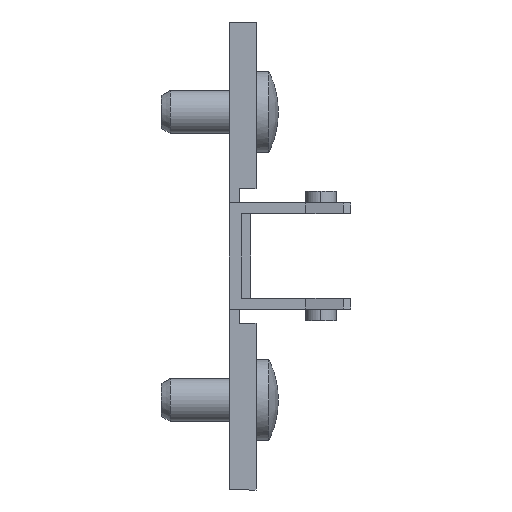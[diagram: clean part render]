
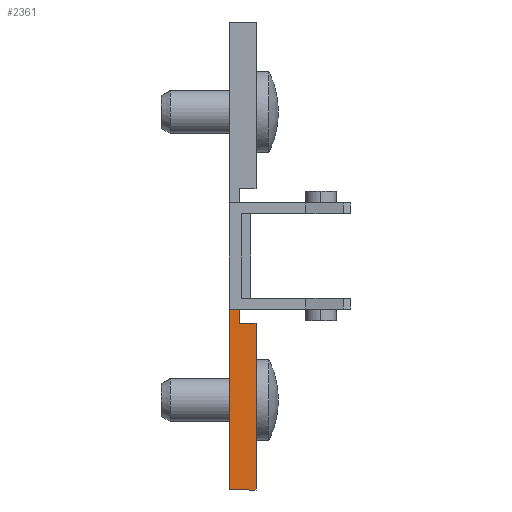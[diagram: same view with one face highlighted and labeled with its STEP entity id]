
A CAD part, front view. The second image highlights one B-rep face of the part: STEP entity #2361.
In plain terms, the highlighted planar face has unit normal (0, -1, 0).
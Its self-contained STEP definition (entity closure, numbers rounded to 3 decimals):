
#34 = LINE ( 'NONE', #1340, #37 ) ;
#37 = VECTOR ( 'NONE', #1332, 1000. ) ;
#53 = VECTOR ( 'NONE', #1271, 1000. ) ;
#55 = LINE ( 'NONE', #1270, #53 ) ;
#159 = ORIENTED_EDGE ( 'NONE', *, *, #2757, .F. ) ;
#160 = ORIENTED_EDGE ( 'NONE', *, *, #2487, .T. ) ;
#161 = ORIENTED_EDGE ( 'NONE', *, *, #2439, .T. ) ;
#162 = ORIENTED_EDGE ( 'NONE', *, *, #2501, .T. ) ;
#163 = ORIENTED_EDGE ( 'NONE', *, *, #2469, .T. ) ;
#166 = ORIENTED_EDGE ( 'NONE', *, *, #2791, .T. ) ;
#412 = CARTESIAN_POINT ( 'NONE',  ( 1.2, -9., -5. ) ) ;
#413 = DIRECTION ( 'NONE',  ( 0., 0., 1. ) ) ;
#459 = CARTESIAN_POINT ( 'NONE',  ( 3., -9., -7.5 ) ) ;
#472 = CARTESIAN_POINT ( 'NONE',  ( 1.2, -9., -5.9 ) ) ;
#585 = CARTESIAN_POINT ( 'NONE',  ( 1.2, -9., -7.5 ) ) ;
#586 = CARTESIAN_POINT ( 'NONE',  ( 0., -9., -26. ) ) ;
#587 = CARTESIAN_POINT ( 'NONE',  ( 0., -9., -5.9 ) ) ;
#633 = VERTEX_POINT ( 'NONE', #875 ) ;
#641 = LINE ( 'NONE', #1203, #679 ) ;
#679 = VECTOR ( 'NONE', #1204, 1000. ) ;
#875 = CARTESIAN_POINT ( 'NONE',  ( 3., -9., -26. ) ) ;
#964 = DIRECTION ( 'NONE',  ( 0., 1., 0. ) ) ;
#965 = DIRECTION ( 'NONE',  ( 0., 0., 1. ) ) ;
#967 = PLANE ( 'NONE',  #2387 ) ;
#977 = CARTESIAN_POINT ( 'NONE',  ( 1.2, -9., -5. ) ) ;
#1203 = CARTESIAN_POINT ( 'NONE',  ( 3., -9., -26. ) ) ;
#1204 = DIRECTION ( 'NONE',  ( 1., 0., 0. ) ) ;
#1233 = DIRECTION ( 'NONE',  ( -1., 0., 0. ) ) ;
#1242 = CARTESIAN_POINT ( 'NONE',  ( 1.2, -9., -7.5 ) ) ;
#1270 = CARTESIAN_POINT ( 'NONE',  ( 0., -9., -26. ) ) ;
#1271 = DIRECTION ( 'NONE',  ( 0., 0., -1. ) ) ;
#1332 = DIRECTION ( 'NONE',  ( 0., 0., 1. ) ) ;
#1340 = CARTESIAN_POINT ( 'NONE',  ( 3., -9., -7.5 ) ) ;
#1652 = CARTESIAN_POINT ( 'NONE',  ( 1.2, -9., -5.9 ) ) ;
#1653 = DIRECTION ( 'NONE',  ( 1., 0., 0. ) ) ;
#1906 = VECTOR ( 'NONE', #1653, 1000. ) ;
#1930 = LINE ( 'NONE', #1652, #1906 ) ;
#1973 = LINE ( 'NONE', #412, #1976 ) ;
#1976 = VECTOR ( 'NONE', #413, 1000. ) ;
#2050 = LINE ( 'NONE', #1242, #2052 ) ;
#2052 = VECTOR ( 'NONE', #1233, 1000. ) ;
#2060 = FACE_OUTER_BOUND ( 'NONE', #3302, .T. ) ;
#2361 = ADVANCED_FACE ( 'NONE', ( #2060 ), #967, .F. ) ;
#2387 = AXIS2_PLACEMENT_3D ( 'NONE', #977, #964, #965 ) ;
#2439 = EDGE_CURVE ( 'NONE', #2934, #633, #641, .T. ) ;
#2469 = EDGE_CURVE ( 'NONE', #2847, #2933, #2050, .T. ) ;
#2487 = EDGE_CURVE ( 'NONE', #2935, #2934, #55, .T. ) ;
#2501 = EDGE_CURVE ( 'NONE', #633, #2847, #34, .T. ) ;
#2757 = EDGE_CURVE ( 'NONE', #2935, #2860, #1930, .T. ) ;
#2791 = EDGE_CURVE ( 'NONE', #2933, #2860, #1973, .T. ) ;
#2847 = VERTEX_POINT ( 'NONE', #459 ) ;
#2860 = VERTEX_POINT ( 'NONE', #472 ) ;
#2933 = VERTEX_POINT ( 'NONE', #585 ) ;
#2934 = VERTEX_POINT ( 'NONE', #586 ) ;
#2935 = VERTEX_POINT ( 'NONE', #587 ) ;
#3302 = EDGE_LOOP ( 'NONE', ( #159, #160, #161, #162, #163, #166 ) ) ;
